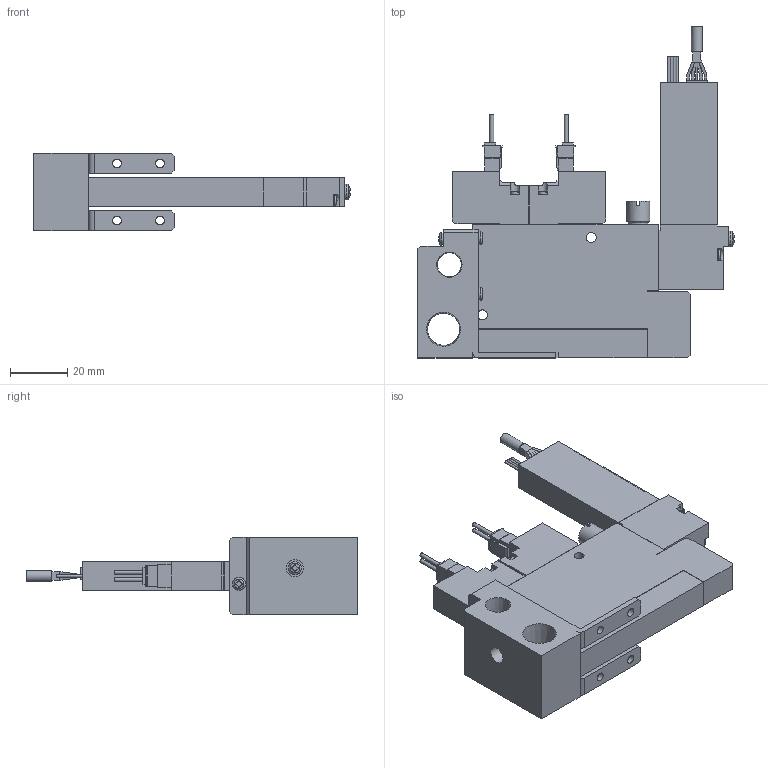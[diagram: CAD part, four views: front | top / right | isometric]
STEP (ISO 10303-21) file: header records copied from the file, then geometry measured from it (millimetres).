
FILE_DESCRIPTION(('STEP AP203'),'1');
FILE_NAME('10C5SC101_3D.stp','2024-09-04T06:22:51',(' '),(' '),'Spatial InterOp 3D',' ',' ');
FILE_SCHEMA(('CONFIG_CONTROL_DESIGN'));
Length unit declared in the file: millimetre
Products named in the file (5): BSC1M※※10C5SC101; Solenoid valve S; Pressure Sensor 10; Unit-C; BaseMC10R
Assembly tree (4 placements, depth 2):
  BSC1M※※10C5SC101
    Solenoid valve S
    Pressure Sensor 10
    Unit-C
    BaseMC10R
Bounding box: 110.35 x 115.8 x 27 mm (x, y, z)
Volume: 76209.3 mm3; surface area: 27712.7 mm2
Topology: 4 solids, 4 shells, 512 faces, 1375 edges, 906 vertices
Faces by surface type: plane 377, cylinder 106, cone 11, sphere 9, torus 9
Full cylindrical faces by diameter (mm): 0.9 x4, 1.4 x4, 2.5 x2, 3 x8, 3.5 x8, 3.8 x1, 4 x1, 4.134 x2, 4.5 x6, 5.5 x2, 6 x1, 7 x2, 8 x1, 8.422 x1, 11.233 x1
Entity records: 16094 total; most frequent: CARTESIAN_POINT 3256, ORIENTED_EDGE 2548, DIRECTION 2539, EDGE_CURVE 1274, LINE 965, VECTOR 965, VERTEX_POINT 879, AXIS2_PLACEMENT_3D 787
